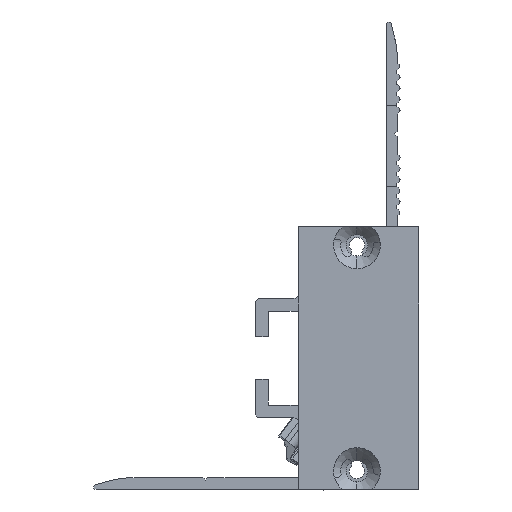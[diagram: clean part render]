
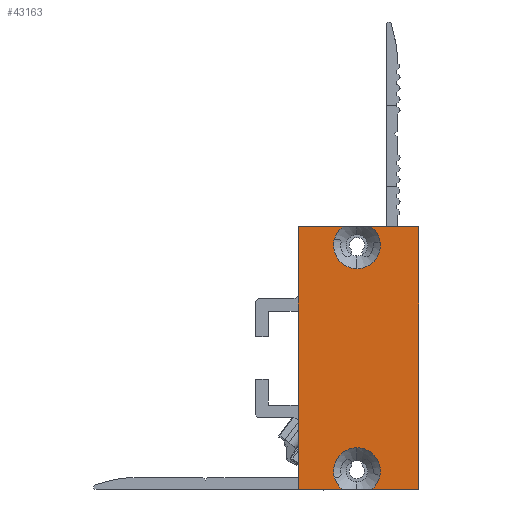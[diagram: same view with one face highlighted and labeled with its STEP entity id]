
A CAD part, left-side view. The second image highlights one B-rep face of the part: STEP entity #43163.
In plain terms, the highlighted planar face has unit normal (-1, 0, 0).
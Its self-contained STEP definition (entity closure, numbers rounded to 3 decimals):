
#1544 = CIRCLE ( 'NONE', #30758, 2.75 ) ;
#2143 = VECTOR ( 'NONE', #101765, 1000. ) ;
#3145 = CARTESIAN_POINT ( 'NONE',  ( 126.606, -45.056, 24.855 ) ) ;
#8912 = DIRECTION ( 'NONE',  ( 1., 0., 0. ) ) ;
#10350 = CARTESIAN_POINT ( 'NONE',  ( 126.606, -62.102, 22.692 ) ) ;
#12614 = EDGE_CURVE ( 'NONE', #39731, #100111, #64429, .T. ) ;
#14698 = CARTESIAN_POINT ( 'NONE',  ( 126.606, -43.358, 22.692 ) ) ;
#14767 = EDGE_CURVE ( 'NONE', #100111, #45947, #60306, .T. ) ;
#16630 = AXIS2_PLACEMENT_3D ( 'NONE', #94360, #69788, #25821 ) ;
#16746 = ORIENTED_EDGE ( 'NONE', *, *, #23025, .T. ) ;
#21699 = DIRECTION ( 'NONE',  ( 0., -1., 0. ) ) ;
#23025 = EDGE_CURVE ( 'NONE', #26764, #87870, #38034, .T. ) ;
#23577 = CARTESIAN_POINT ( 'NONE',  ( 126.606, -45.056, 24.855 ) ) ;
#24497 = DIRECTION ( 'NONE',  ( 1., 0., 0. ) ) ;
#24511 = ORIENTED_EDGE ( 'NONE', *, *, #56391, .F. ) ;
#24626 = EDGE_CURVE ( 'NONE', #53171, #26764, #45208, .T. ) ;
#25821 = DIRECTION ( 'NONE',  ( 0., 0., 1. ) ) ;
#26764 = VERTEX_POINT ( 'NONE', #68325 ) ;
#29841 = AXIS2_PLACEMENT_3D ( 'NONE', #91009, #24497, #80953 ) ;
#30758 = AXIS2_PLACEMENT_3D ( 'NONE', #3145, #68698, #50380 ) ;
#31087 = EDGE_LOOP ( 'NONE', ( #84692, #39481, #16746, #24511, #55820, #43132, #57224, #71051, #68604, #48566 ) ) ;
#31105 = AXIS2_PLACEMENT_3D ( 'NONE', #40709, #8912, #91028 ) ;
#31201 = CARTESIAN_POINT ( 'NONE',  ( 126.606, -46.755, 53.505 ) ) ;
#36444 = CARTESIAN_POINT ( 'NONE',  ( 126.606, -38.173, 43.631 ) ) ;
#37000 = AXIS2_PLACEMENT_3D ( 'NONE', #23577, #70938, #39245 ) ;
#37128 = VECTOR ( 'NONE', #76426, 1000. ) ;
#37872 = LINE ( 'NONE', #101119, #74172 ) ;
#38034 = CIRCLE ( 'NONE', #31105, 2.75 ) ;
#39245 = DIRECTION ( 'NONE',  ( 0., 0., -1. ) ) ;
#39481 = ORIENTED_EDGE ( 'NONE', *, *, #24626, .T. ) ;
#39731 = VERTEX_POINT ( 'NONE', #52056 ) ;
#40709 = CARTESIAN_POINT ( 'NONE',  ( 126.606, -45.056, 51.342 ) ) ;
#42498 = EDGE_CURVE ( 'NONE', #101443, #58593, #53025, .T. ) ;
#43132 = ORIENTED_EDGE ( 'NONE', *, *, #72110, .T. ) ;
#43163 = ADVANCED_FACE ( 'NONE', ( #97227 ), #80713, .T. ) ;
#43576 = CARTESIAN_POINT ( 'NONE',  ( 126.606, -52.272, 43.631 ) ) ;
#44245 = VECTOR ( 'NONE', #66666, 1000. ) ;
#45208 = CIRCLE ( 'NONE', #29841, 2.75 ) ;
#45947 = VERTEX_POINT ( 'NONE', #51605 ) ;
#47379 = VERTEX_POINT ( 'NONE', #103358 ) ;
#48566 = ORIENTED_EDGE ( 'NONE', *, *, #74849, .F. ) ;
#50380 = DIRECTION ( 'NONE',  ( 0., 0., -1. ) ) ;
#51605 = CARTESIAN_POINT ( 'NONE',  ( 126.606, -52.272, 22.692 ) ) ;
#52056 = CARTESIAN_POINT ( 'NONE',  ( 126.606, -45.056, 27.605 ) ) ;
#52982 = CARTESIAN_POINT ( 'NONE',  ( 126.606, -62.102, 22.692 ) ) ;
#53025 = LINE ( 'NONE', #36444, #79874 ) ;
#53171 = VERTEX_POINT ( 'NONE', #31201 ) ;
#55820 = ORIENTED_EDGE ( 'NONE', *, *, #42498, .F. ) ;
#56391 = EDGE_CURVE ( 'NONE', #58593, #87870, #37872, .T. ) ;
#57224 = ORIENTED_EDGE ( 'NONE', *, *, #68329, .T. ) ;
#58593 = VERTEX_POINT ( 'NONE', #104505 ) ;
#60306 = LINE ( 'NONE', #10350, #37128 ) ;
#60750 = DIRECTION ( 'NONE',  ( 0., 0., -1. ) ) ;
#64429 = CIRCLE ( 'NONE', #37000, 2.75 ) ;
#66666 = DIRECTION ( 'NONE',  ( 0., -1., 0. ) ) ;
#68325 = CARTESIAN_POINT ( 'NONE',  ( 126.606, -45.056, 48.592 ) ) ;
#68329 = EDGE_CURVE ( 'NONE', #105894, #39731, #1544, .T. ) ;
#68604 = ORIENTED_EDGE ( 'NONE', *, *, #14767, .T. ) ;
#68698 = DIRECTION ( 'NONE',  ( 1., 0., 0. ) ) ;
#69788 = DIRECTION ( 'NONE',  ( -1., 0., 0. ) ) ;
#70938 = DIRECTION ( 'NONE',  ( 1., 0., 0. ) ) ;
#71051 = ORIENTED_EDGE ( 'NONE', *, *, #12614, .T. ) ;
#72110 = EDGE_CURVE ( 'NONE', #101443, #105894, #76099, .T. ) ;
#74172 = VECTOR ( 'NONE', #21699, 1000. ) ;
#74849 = EDGE_CURVE ( 'NONE', #47379, #45947, #101437, .T. ) ;
#76099 = LINE ( 'NONE', #52982, #2143 ) ;
#76426 = DIRECTION ( 'NONE',  ( 0., -1., 0. ) ) ;
#77217 = DIRECTION ( 'NONE',  ( 0., 0., 1. ) ) ;
#79874 = VECTOR ( 'NONE', #77217, 1000. ) ;
#80713 = PLANE ( 'NONE',  #16630 ) ;
#80953 = DIRECTION ( 'NONE',  ( 0., 0., -1. ) ) ;
#83862 = CARTESIAN_POINT ( 'NONE',  ( 126.606, -46.755, 22.692 ) ) ;
#84692 = ORIENTED_EDGE ( 'NONE', *, *, #92508, .F. ) ;
#87870 = VERTEX_POINT ( 'NONE', #96850 ) ;
#89520 = CARTESIAN_POINT ( 'NONE',  ( 126.606, -38.173, 22.692 ) ) ;
#91009 = CARTESIAN_POINT ( 'NONE',  ( 126.606, -45.056, 51.342 ) ) ;
#91028 = DIRECTION ( 'NONE',  ( 0., 0., -1. ) ) ;
#92508 = EDGE_CURVE ( 'NONE', #53171, #47379, #97704, .T. ) ;
#94360 = CARTESIAN_POINT ( 'NONE',  ( 126.606, -78.98, 49.164 ) ) ;
#95460 = VECTOR ( 'NONE', #60750, 1000. ) ;
#96850 = CARTESIAN_POINT ( 'NONE',  ( 126.606, -43.358, 53.505 ) ) ;
#97227 = FACE_OUTER_BOUND ( 'NONE', #31087, .T. ) ;
#97704 = LINE ( 'NONE', #98210, #44245 ) ;
#98210 = CARTESIAN_POINT ( 'NONE',  ( 126.606, -62.102, 53.505 ) ) ;
#100111 = VERTEX_POINT ( 'NONE', #83862 ) ;
#101119 = CARTESIAN_POINT ( 'NONE',  ( 126.606, -62.102, 53.505 ) ) ;
#101437 = LINE ( 'NONE', #43576, #95460 ) ;
#101443 = VERTEX_POINT ( 'NONE', #89520 ) ;
#101765 = DIRECTION ( 'NONE',  ( 0., -1., 0. ) ) ;
#103358 = CARTESIAN_POINT ( 'NONE',  ( 126.606, -52.272, 53.505 ) ) ;
#104505 = CARTESIAN_POINT ( 'NONE',  ( 126.606, -38.173, 53.505 ) ) ;
#105894 = VERTEX_POINT ( 'NONE', #14698 ) ;
